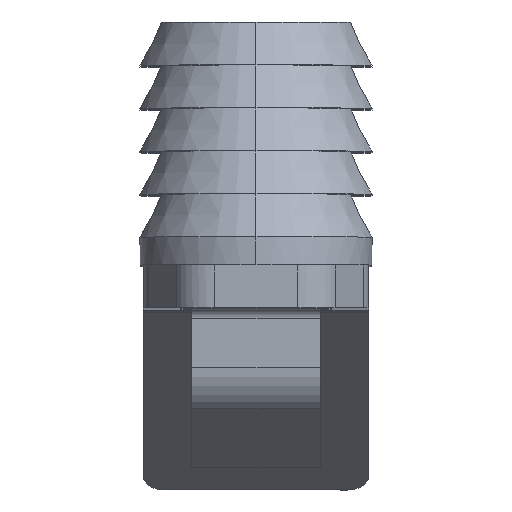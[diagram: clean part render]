
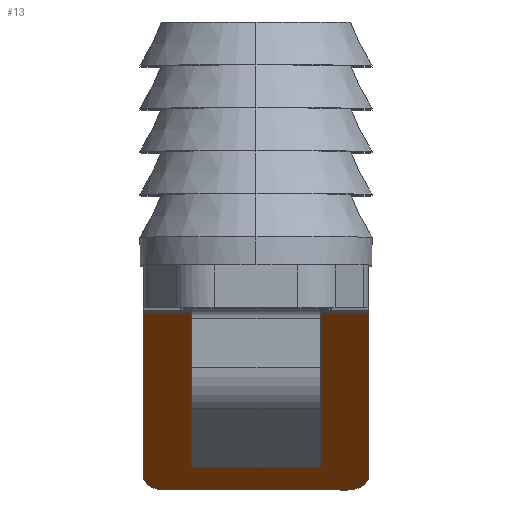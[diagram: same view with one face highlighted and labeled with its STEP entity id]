
A CAD part, top view. The second image highlights one B-rep face of the part: STEP entity #13.
In plain terms, the highlighted planar face has unit normal (0, -0.766, 0.643).
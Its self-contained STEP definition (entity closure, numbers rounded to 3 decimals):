
#13 = ADVANCED_FACE ( 'NONE', ( #842 ), #2134, .F. ) ;
#71 = AXIS2_PLACEMENT_3D ( 'NONE', #2926, #2923, #2914 ) ;
#72 = AXIS2_PLACEMENT_3D ( 'NONE', #2947, #2942, #2941 ) ;
#157 = EDGE_CURVE ( 'NONE', #1378, #1358, #984, .T. ) ;
#162 = EDGE_CURVE ( 'NONE', #1383, #1358, #994, .T. ) ;
#174 = EDGE_CURVE ( 'NONE', #1266, #1451, #1014, .T. ) ;
#177 = EDGE_CURVE ( 'NONE', #1392, #1378, #1021, .T. ) ;
#178 = EDGE_CURVE ( 'NONE', #1392, #1266, #1023, .T. ) ;
#179 = EDGE_CURVE ( 'NONE', #1451, #1383, #1025, .T. ) ;
#348 = EDGE_LOOP ( 'NONE', ( #470, #471, #472, #473, #474, #475 ) ) ;
#470 = ORIENTED_EDGE ( 'NONE', *, *, #177, .F. ) ;
#471 = ORIENTED_EDGE ( 'NONE', *, *, #178, .T. ) ;
#472 = ORIENTED_EDGE ( 'NONE', *, *, #174, .T. ) ;
#473 = ORIENTED_EDGE ( 'NONE', *, *, #179, .T. ) ;
#474 = ORIENTED_EDGE ( 'NONE', *, *, #162, .T. ) ;
#475 = ORIENTED_EDGE ( 'NONE', *, *, #157, .F. ) ;
#626 = AXIS2_PLACEMENT_3D ( 'NONE', #2145, #2127, #2126 ) ;
#842 = FACE_OUTER_BOUND ( 'NONE', #348, .T. ) ;
#984 = LINE ( 'NONE', #2089, #986 ) ;
#986 = VECTOR ( 'NONE', #1991, 1000. ) ;
#994 = LINE ( 'NONE', #1988, #995 ) ;
#995 = VECTOR ( 'NONE', #1954, 1000. ) ;
#1014 = LINE ( 'NONE', #2982, #1016 ) ;
#1016 = VECTOR ( 'NONE', #2981, 1000. ) ;
#1021 = LINE ( 'NONE', #2953, #1022 ) ;
#1022 = VECTOR ( 'NONE', #2950, 1000. ) ;
#1023 = CIRCLE ( 'NONE', #72, 1. ) ;
#1025 = CIRCLE ( 'NONE', #71, 1. ) ;
#1126 = CARTESIAN_POINT ( 'NONE',  ( 4.25, -10.356, -63.409 ) ) ;
#1130 = CARTESIAN_POINT ( 'NONE',  ( 5.25, -9.713, -62.643 ) ) ;
#1145 = CARTESIAN_POINT ( 'NONE',  ( -5.25, -2.117, -53.589 ) ) ;
#1167 = CARTESIAN_POINT ( 'NONE',  ( -5.25, -9.713, -62.643 ) ) ;
#1266 = VERTEX_POINT ( 'NONE', #1541 ) ;
#1358 = VERTEX_POINT ( 'NONE', #1401 ) ;
#1378 = VERTEX_POINT ( 'NONE', #1145 ) ;
#1383 = VERTEX_POINT ( 'NONE', #1130 ) ;
#1392 = VERTEX_POINT ( 'NONE', #1167 ) ;
#1401 = CARTESIAN_POINT ( 'NONE',  ( 5.25, -2.117, -53.589 ) ) ;
#1451 = VERTEX_POINT ( 'NONE', #1126 ) ;
#1541 = CARTESIAN_POINT ( 'NONE',  ( -4.25, -10.356, -63.409 ) ) ;
#1954 = DIRECTION ( 'NONE',  ( 0., 0.643, 0.766 ) ) ;
#1988 = CARTESIAN_POINT ( 'NONE',  ( 5.25, -10.356, -63.409 ) ) ;
#1991 = DIRECTION ( 'NONE',  ( 1., 0., 0. ) ) ;
#2089 = CARTESIAN_POINT ( 'NONE',  ( -5.25, -2.117, -53.589 ) ) ;
#2126 = DIRECTION ( 'NONE',  ( 0., -0.643, -0.766 ) ) ;
#2127 = DIRECTION ( 'NONE',  ( 0., 0.766, -0.643 ) ) ;
#2134 = PLANE ( 'NONE',  #626 ) ;
#2145 = CARTESIAN_POINT ( 'NONE',  ( -5.25, -10.356, -63.409 ) ) ;
#2914 = DIRECTION ( 'NONE',  ( 0., -0.643, -0.766 ) ) ;
#2923 = DIRECTION ( 'NONE',  ( 0., -0.766, 0.643 ) ) ;
#2926 = CARTESIAN_POINT ( 'NONE',  ( 4.25, -9.713, -62.643 ) ) ;
#2941 = DIRECTION ( 'NONE',  ( 0., -0.643, -0.766 ) ) ;
#2942 = DIRECTION ( 'NONE',  ( 0., -0.766, 0.643 ) ) ;
#2947 = CARTESIAN_POINT ( 'NONE',  ( -4.25, -9.713, -62.643 ) ) ;
#2950 = DIRECTION ( 'NONE',  ( 0., 0.643, 0.766 ) ) ;
#2953 = CARTESIAN_POINT ( 'NONE',  ( -5.25, -10.356, -63.409 ) ) ;
#2981 = DIRECTION ( 'NONE',  ( 1., 0., 0. ) ) ;
#2982 = CARTESIAN_POINT ( 'NONE',  ( -5.25, -10.356, -63.409 ) ) ;
